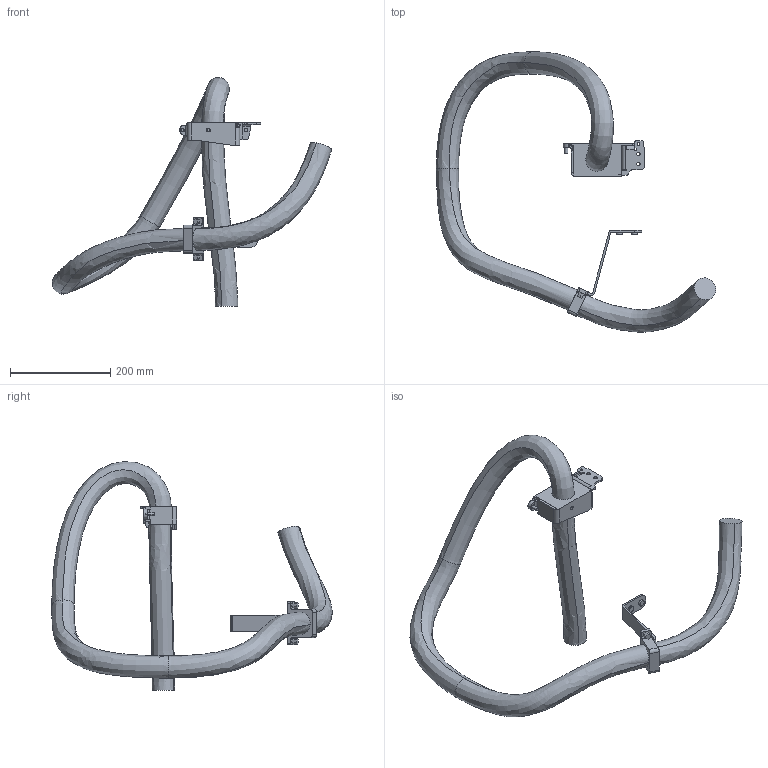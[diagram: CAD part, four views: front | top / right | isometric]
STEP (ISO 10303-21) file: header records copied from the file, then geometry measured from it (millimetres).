
FILE_DESCRIPTION (( 'STEP AP214' ), '1' );
FILE_NAME ('IRB5710-LID-MH_70kg-270_OC_00_LINK01_CABLE.step', '2025-07-07T14:08:59', ( '' ), ( '' ), 'SwSTEP 2.0', 'SolidWorks 2024', '' );
FILE_SCHEMA (( 'AUTOMOTIVE_DESIGN' ));
Length unit declared in the file: millimetre
Products named in the file (1): IRB5710-LID-MH_70kg-270_OC_00_LINK01_CABLE
Bounding box: 558.86 x 560.18 x 457.15 mm (x, y, z)
Volume: 3394414.7 mm3; surface area: 341659.9 mm2
Topology: 1 solids, 1 shells, 205 faces, 539 edges, 345 vertices
Faces by surface type: plane 104, cylinder 85, bspline 10, cone 6
Entity records: 11810 total; most frequent: CARTESIAN_POINT 4354, DIRECTION 1108, ORIENTED_EDGE 1078, EDGE_CURVE 539, AXIS2_PLACEMENT_3D 391, VERTEX_POINT 345, LINE 326, VECTOR 326
